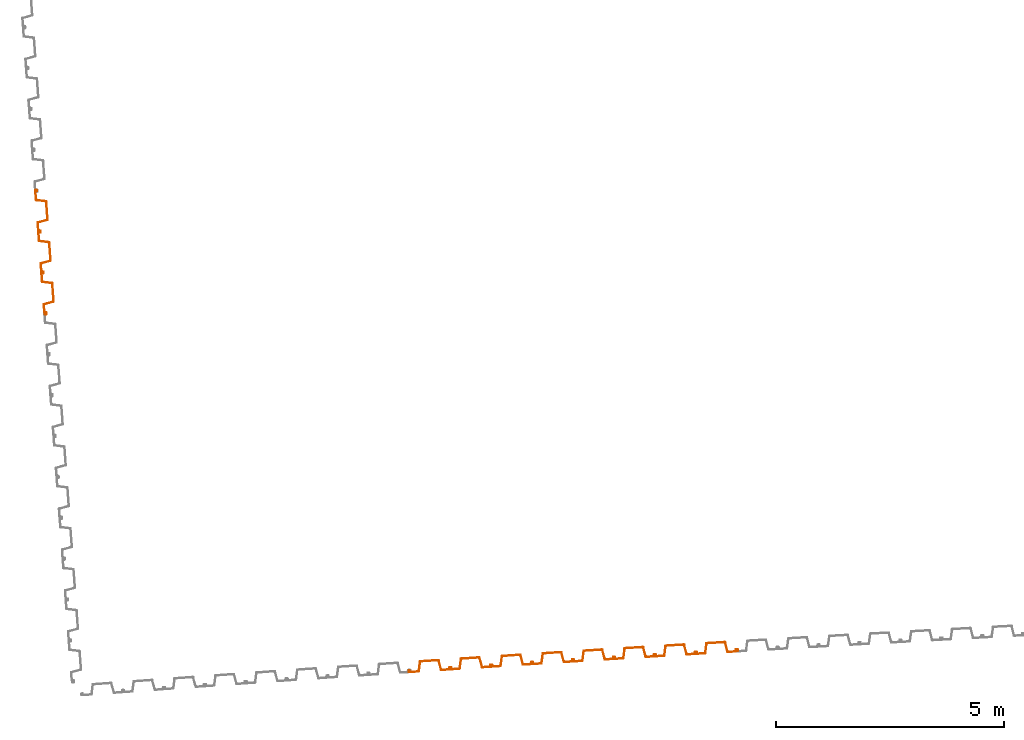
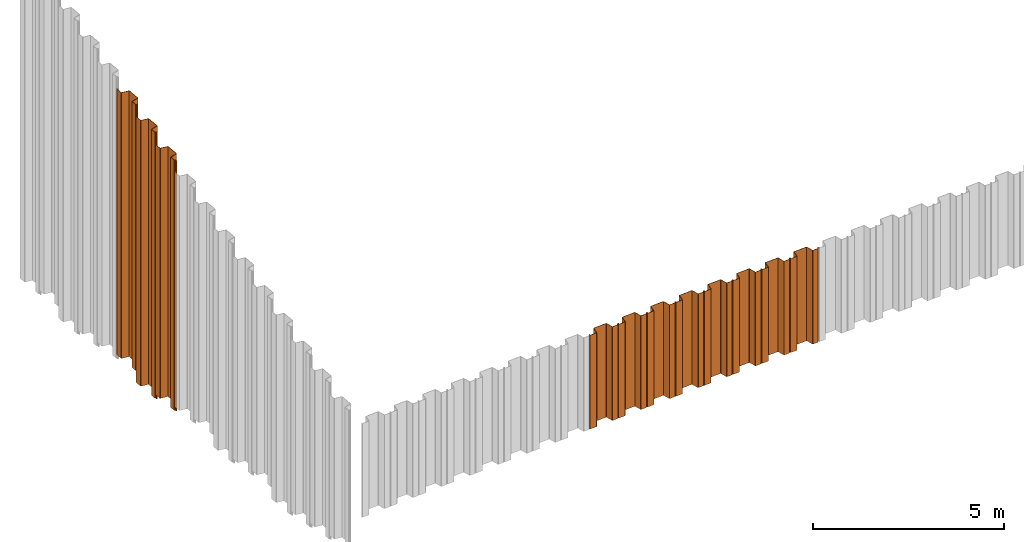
# One storey, part 4 of 12: 11 proxies.
"""IFC2X3 building model written with IfcOpenShell, lengths in millimetres."""

from ifc_helpers import new_model, entity, si_unit, converted_unit, derived_unit, direction, frame, frame_2d, origin, place, context, subcontext, project, spatial, polyline, circle_curve, parameter, trimmed, segment, composite_curve, outline, extrude, source, transform, mapped, material, type_object, type_shapes, element, save


model = new_model("IFC2X3")

# Units and contexts
model_context = context("Model", 3, precision=0.01, world=origin(), true_north=direction((6.12303176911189e-17, 1.0)))
body_context = subcontext(model_context, "Body", "Model", "MODEL_VIEW")
ifc_project = project(units=[si_unit("LENGTHUNIT", "METRE", prefix="MILLI"), si_unit("AREAUNIT", "SQUARE_METRE"), si_unit("VOLUMEUNIT", "CUBIC_METRE"), converted_unit("PLANEANGLEUNIT", "DEGREE", entity("IfcRatioMeasure", 0.0174532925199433), si_unit("PLANEANGLEUNIT", "RADIAN"), dimensions=[0, 0, 0, 0, 0, 0, 0]), si_unit("MASSUNIT", "GRAM", prefix="KILO"), derived_unit("MASSDENSITYUNIT", [(si_unit("MASSUNIT", "GRAM", prefix="KILO"), 1), (si_unit("LENGTHUNIT", "METRE"), -3)]), derived_unit("MOMENTOFINERTIAUNIT", [(si_unit("LENGTHUNIT", "METRE"), 4)]), si_unit("TIMEUNIT", "SECOND"), si_unit("FREQUENCYUNIT", "HERTZ"), si_unit("THERMODYNAMICTEMPERATUREUNIT", "DEGREE_CELSIUS"), derived_unit("THERMALTRANSMITTANCEUNIT", [(si_unit("MASSUNIT", "GRAM", prefix="KILO"), 1), (si_unit("THERMODYNAMICTEMPERATUREUNIT", "KELVIN"), -1), (si_unit("TIMEUNIT", "SECOND"), -3)]), derived_unit("VOLUMETRICFLOWRATEUNIT", [(si_unit("LENGTHUNIT", "METRE"), 3), (si_unit("TIMEUNIT", "SECOND"), -1)]), si_unit("ELECTRICCURRENTUNIT", "AMPERE"), si_unit("ELECTRICVOLTAGEUNIT", "VOLT"), si_unit("POWERUNIT", "WATT"), si_unit("FORCEUNIT", "NEWTON", prefix="KILO"), si_unit("ILLUMINANCEUNIT", "LUX"), si_unit("LUMINOUSFLUXUNIT", "LUMEN"), si_unit("LUMINOUSINTENSITYUNIT", "CANDELA"), derived_unit("USERDEFINED", [(si_unit("MASSUNIT", "GRAM", prefix="KILO"), -1), (si_unit("LENGTHUNIT", "METRE"), -2), (si_unit("TIMEUNIT", "SECOND"), 3), (si_unit("LUMINOUSFLUXUNIT", "LUMEN"), 1)]), derived_unit("LINEARVELOCITYUNIT", [(si_unit("LENGTHUNIT", "METRE"), 1), (si_unit("TIMEUNIT", "SECOND"), -1)]), si_unit("PRESSUREUNIT", "PASCAL"), derived_unit("USERDEFINED", [(si_unit("LENGTHUNIT", "METRE"), -2), (si_unit("MASSUNIT", "GRAM", prefix="KILO"), 1), (si_unit("TIMEUNIT", "SECOND"), -2)]), derived_unit("LINEARFORCEUNIT", [(si_unit("MASSUNIT", "GRAM", prefix="KILO"), 1), (si_unit("LENGTHUNIT", "METRE"), 1), (si_unit("TIMEUNIT", "SECOND"), -2), (si_unit("LENGTHUNIT", "METRE"), -1)]), derived_unit("PLANARFORCEUNIT", [(si_unit("MASSUNIT", "GRAM", prefix="KILO"), 1), (si_unit("LENGTHUNIT", "METRE"), 1), (si_unit("TIMEUNIT", "SECOND"), -2), (si_unit("LENGTHUNIT", "METRE"), -2)])], contexts=[model_context])

# Site, building, storey
site_placement = place(None, origin())
site = spatial("IfcSite", under=ifc_project, at=site_placement, Name="Default", CompositionType="ELEMENT")
building_placement = place(site_placement, origin())
building = spatial("IfcBuilding", under=site, at=building_placement, CompositionType="ELEMENT")
storey_placement = place(building_placement, frame((0.0, 0.0, 10600.0)))
storey = spatial("IfcBuildingStorey", under=building, at=storey_placement, Name="AP+10.600", CompositionType="ELEMENT", Elevation=10600.0)

# Proxies
ifc_material = material(Name="<Unnamed>")
building_element_proxy_type_1 = type_object("IfcBuildingElementProxyType", Name="鋼矢板10H型:鋼矢板10H型", PredefinedType="NOTDEFINED", material=ifc_material)
shared_shape_1 = source(origin(), body_context, "Body", "SweptSolid", [
    extrude(outline(composite_curve([segment(trimmed(circle_curve(frame_2d((85.3662976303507, 306.644432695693), x_axis=(0.422618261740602, 0.906307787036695)), 13.885714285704), [parameter(24.9999999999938)], [parameter(90.0000000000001)], True, "PARAMETER"), True, "CONTINUOUS"), segment(polyline([(72.7815666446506, 312.512789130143), (9.8129512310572, 177.476157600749)]), True, "CONTINUOUS"), segment(trimmed(circle_curve(frame_2d((29.3891994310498, 168.347603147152), x_axis=(0.422618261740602, 0.906307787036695)), 21.6), [parameter(90.0000000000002)], [parameter(168.69006752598)], True, "PARAMETER"), True, "CONTINUOUS"), segment(polyline([(16.598697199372, 150.941769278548), (175.329723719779, 34.2998683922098)]), True, "CONTINUOUS"), segment(trimmed(circle_curve(frame_2d((168.93447260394, 25.596951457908), x_axis=(0.422618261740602, 0.906307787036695)), 10.7999999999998), [parameter(270.0)], [parameter(348.690067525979)], True, "PARAMETER"), False, "CONTINUOUS"), segment(polyline([(178.722596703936, 21.0326742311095), (18.2974003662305, -323.000269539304)]), True, "CONTINUOUS"), segment(trimmed(circle_curve(frame_2d((8.50927626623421, -318.435992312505), x_axis=(0.422618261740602, 0.906307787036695)), 10.8), [parameter(191.30993247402)], [parameter(269.999999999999)], True, "PARAMETER"), False, "CONTINUOUS"), segment(polyline([(5.95324328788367, -328.929166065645), (-185.429973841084, -282.310113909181)]), True, "CONTINUOUS"), segment(trimmed(circle_curve(frame_2d((-190.542039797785, -303.296461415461), x_axis=(0.422618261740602, 0.906307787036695)), 21.6000000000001), [parameter(11.3099324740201)], [parameter(90.0000000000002)], True, "PARAMETER"), True, "CONTINUOUS"), segment(polyline([(-210.118287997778, -294.167906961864), (-290.330886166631, -466.184378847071)]), True, "CONTINUOUS"), segment(trimmed(circle_curve(frame_2d((-270.754637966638, -475.312933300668), x_axis=(0.422618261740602, 0.906307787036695)), 21.6), [parameter(90.0000000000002)], [parameter(269.999999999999)], True, "PARAMETER"), True, "CONTINUOUS"), segment(polyline([(-251.178389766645, -484.441487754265), (-249.065298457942, -479.909948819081)]), True, "CONTINUOUS"), segment(polyline([(-249.065298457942, -479.909948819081), (-258.853422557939, -475.345671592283)]), True, "CONTINUOUS"), segment(polyline([(-258.853422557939, -475.345671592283), (-260.966513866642, -479.877210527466)]), True, "CONTINUOUS"), segment(trimmed(circle_curve(frame_2d((-270.754637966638, -475.312933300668), x_axis=(0.422618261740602, 0.906307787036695)), 10.8), [parameter(90.0000000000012)], [parameter(270.0)], True, "PARAMETER"), False, "CONTINUOUS"), segment(polyline([(-280.542762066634, -470.748656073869), (-200.330163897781, -298.732184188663)]), True, "CONTINUOUS"), segment(trimmed(circle_curve(frame_2d((-190.542039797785, -303.296461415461), x_axis=(0.422618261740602, 0.906307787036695)), 10.8), [parameter(11.3099324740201)], [parameter(89.9999999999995)], True, "PARAMETER"), False, "CONTINUOUS"), segment(polyline([(-187.986006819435, -292.803287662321), (3.39721030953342, -339.422339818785)]), True, "CONTINUOUS"), segment(trimmed(circle_curve(frame_2d((8.50927626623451, -318.435992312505), x_axis=(0.422618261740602, 0.906307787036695)), 21.6), [parameter(191.30993247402)], [parameter(270.0)], True, "PARAMETER"), True, "CONTINUOUS"), segment(polyline([(28.0855244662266, -327.564546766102), (188.510720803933, 16.4683970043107)]), True, "CONTINUOUS"), segment(trimmed(circle_curve(frame_2d((168.93447260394, 25.5969514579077), x_axis=(0.422618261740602, 0.906307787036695)), 21.6), [parameter(270.0)], [parameter(348.69006752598)], True, "PARAMETER"), True, "CONTINUOUS"), segment(polyline([(181.724974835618, 43.0027853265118), (22.9939483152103, 159.644686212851)]), True, "CONTINUOUS"), segment(trimmed(circle_curve(frame_2d((29.3891994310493, 168.347603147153), x_axis=(0.422618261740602, 0.906307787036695)), 10.7999999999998), [parameter(89.9999999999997)], [parameter(168.690067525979)], True, "PARAMETER"), False, "CONTINUOUS"), segment(polyline([(19.6010753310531, 172.911880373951), (82.5696907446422, 307.948511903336)]), True, "CONTINUOUS"), segment(trimmed(circle_curve(frame_2d((85.3662976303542, 306.64443269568), x_axis=(0.422618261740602, 0.906307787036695)), 3.08571428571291), [parameter(25.0000000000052)], [parameter(90.0000000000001)], True, "PARAMETER"), False, "CONTINUOUS"), segment(polyline([(85.3662976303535, 309.730146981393), (122.220231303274, 309.730146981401)]), True, "CONTINUOUS"), segment(trimmed(circle_curve(frame_2d((122.220231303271, 323.615861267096), x_axis=(0.422618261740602, 0.906307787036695)), 13.8857142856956), [parameter(205.000000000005)], [parameter(270.0)], True, "PARAMETER"), True, "CONTINUOUS"), segment(polyline([(134.804962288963, 317.747504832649), (141.079261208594, 331.202782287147)]), True, "CONTINUOUS"), segment(trimmed(circle_curve(frame_2d((121.503013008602, 340.331336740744), x_axis=(0.422618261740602, 0.906307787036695)), 21.6), [parameter(270.0)], [parameter(90.0000000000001)], True, "PARAMETER"), True, "CONTINUOUS"), segment(polyline([(101.926764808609, 349.459891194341), (99.8136734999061, 344.928352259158)]), True, "CONTINUOUS"), segment(polyline([(99.8136734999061, 344.928352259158), (109.601797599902, 340.364075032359)]), True, "CONTINUOUS"), segment(polyline([(109.601797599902, 340.364075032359), (111.714888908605, 344.895613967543)]), True, "CONTINUOUS"), segment(trimmed(circle_curve(frame_2d((121.503013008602, 340.331336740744), x_axis=(0.422618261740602, 0.906307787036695)), 10.8), [parameter(270.0)], [parameter(89.9999999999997)], True, "PARAMETER"), False, "CONTINUOUS"), segment(polyline([(131.291137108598, 335.767059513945), (125.01683818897, 322.311782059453)]), True, "CONTINUOUS"), segment(trimmed(circle_curve(frame_2d((122.220231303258, 323.615861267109), x_axis=(0.422618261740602, 0.906307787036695)), 3.08571428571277), [parameter(204.999999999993)], [parameter(270.0)], True, "PARAMETER"), False, "CONTINUOUS"), segment(polyline([(122.220231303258, 320.530146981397), (85.3662976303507, 320.530146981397)]), True, "CONTINUOUS")], self_intersect=False)), frame((95.205667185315, -48.8888888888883, -3000.0), z_axis=(0.0, 0.0, -1.0), x_axis=(0.4226182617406, 0.906307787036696, 0.0)), (0.0, 0.0, -1.0), 3000.0),
])
type_shapes(building_element_proxy_type_1, [shared_shape_1])
for number, where, z_axis, x_axis in (
    (1, (-74527.7374481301, -17214.3908465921, -650.0), (0.0, 0.0, 1.0), (0.998208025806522, 0.0598392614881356, 0.0)),
    (2, (-75426.0992993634, -17268.6567544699, -650.0), (0.0, 0.0, 1.0), (0.998152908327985, 0.0607517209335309, 0.0)),
    (3, (-76324.4110225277, -17323.7438430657, -650.0), (0.0, 0.0, 1.0), (0.998096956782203, 0.0616641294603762, 0.0)),
    (4, (-77222.6721610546, -17379.6520850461, -650.0), (0.0, 0.0, 1.0), (0.99804017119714, 0.0625764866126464, 0.0)),
    (5, (-78120.8816702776, -17436.3814147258, -650.0), (0.0, 0.0, 1.0), (0.997982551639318, 0.0634887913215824, 0.0)),
    (6, (-79019.0390936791, -17493.9318039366, -650.0), (0.0, 0.0, 1.0), (0.997924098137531, 0.0644010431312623, 0.0)),
    (7, (-79917.1433867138, -17552.3031850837, -650.0), (0.0, 0.0, 1.0), (0.997864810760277, 0.0653132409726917, 0.0)),
    (8, (-80815.1940929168, -17611.495529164, -650.0), (0.0, 0.0, 1.0), (0.997804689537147, 0.0662253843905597, 0.0)),
):
    element("IfcBuildingElementProxy", number, at=place(storey_placement, frame(where, z_axis=z_axis, x_axis=x_axis)), inside=storey, type_object=building_element_proxy_type_1, material=ifc_material, Name="鋼矢板10H型:鋼矢板10H型", ObjectType="鋼矢板10H型:鋼矢板10H型", context=body_context, shape_type="MappedRepresentation", body=[
        mapped(shared_shape_1, transform((0.0, 0.0, 0.0), scale=1.0)),
    ])
building_element_proxy_type_2 = type_object("IfcBuildingElementProxyType", Name="鋼矢板10H型:鋼矢板10H型", PredefinedType="NOTDEFINED", material=ifc_material)
shared_shape_2 = source(origin(), body_context, "Body", "SweptSolid", [
    extrude(outline(composite_curve([segment(trimmed(circle_curve(frame_2d((85.3662976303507, 306.644432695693), x_axis=(0.422618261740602, 0.906307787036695)), 13.885714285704), [parameter(24.9999999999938)], [parameter(90.0000000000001)], True, "PARAMETER"), True, "CONTINUOUS"), segment(polyline([(72.7815666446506, 312.512789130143), (9.8129512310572, 177.476157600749)]), True, "CONTINUOUS"), segment(trimmed(circle_curve(frame_2d((29.3891994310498, 168.347603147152), x_axis=(0.422618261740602, 0.906307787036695)), 21.6), [parameter(90.0000000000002)], [parameter(168.69006752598)], True, "PARAMETER"), True, "CONTINUOUS"), segment(polyline([(16.598697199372, 150.941769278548), (175.329723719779, 34.2998683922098)]), True, "CONTINUOUS"), segment(trimmed(circle_curve(frame_2d((168.93447260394, 25.596951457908), x_axis=(0.422618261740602, 0.906307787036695)), 10.7999999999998), [parameter(270.0)], [parameter(348.690067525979)], True, "PARAMETER"), False, "CONTINUOUS"), segment(polyline([(178.722596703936, 21.0326742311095), (18.2974003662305, -323.000269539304)]), True, "CONTINUOUS"), segment(trimmed(circle_curve(frame_2d((8.50927626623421, -318.435992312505), x_axis=(0.422618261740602, 0.906307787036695)), 10.8), [parameter(191.30993247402)], [parameter(269.999999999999)], True, "PARAMETER"), False, "CONTINUOUS"), segment(polyline([(5.95324328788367, -328.929166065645), (-185.429973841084, -282.310113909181)]), True, "CONTINUOUS"), segment(trimmed(circle_curve(frame_2d((-190.542039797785, -303.296461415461), x_axis=(0.422618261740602, 0.906307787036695)), 21.6000000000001), [parameter(11.3099324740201)], [parameter(90.0000000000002)], True, "PARAMETER"), True, "CONTINUOUS"), segment(polyline([(-210.118287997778, -294.167906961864), (-290.330886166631, -466.184378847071)]), True, "CONTINUOUS"), segment(trimmed(circle_curve(frame_2d((-270.754637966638, -475.312933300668), x_axis=(0.422618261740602, 0.906307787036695)), 21.6), [parameter(90.0000000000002)], [parameter(269.999999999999)], True, "PARAMETER"), True, "CONTINUOUS"), segment(polyline([(-251.178389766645, -484.441487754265), (-249.065298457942, -479.909948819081)]), True, "CONTINUOUS"), segment(polyline([(-249.065298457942, -479.909948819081), (-258.853422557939, -475.345671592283)]), True, "CONTINUOUS"), segment(polyline([(-258.853422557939, -475.345671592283), (-260.966513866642, -479.877210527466)]), True, "CONTINUOUS"), segment(trimmed(circle_curve(frame_2d((-270.754637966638, -475.312933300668), x_axis=(0.422618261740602, 0.906307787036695)), 10.8), [parameter(90.0000000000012)], [parameter(270.0)], True, "PARAMETER"), False, "CONTINUOUS"), segment(polyline([(-280.542762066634, -470.748656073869), (-200.330163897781, -298.732184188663)]), True, "CONTINUOUS"), segment(trimmed(circle_curve(frame_2d((-190.542039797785, -303.296461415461), x_axis=(0.422618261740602, 0.906307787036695)), 10.8), [parameter(11.3099324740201)], [parameter(89.9999999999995)], True, "PARAMETER"), False, "CONTINUOUS"), segment(polyline([(-187.986006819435, -292.803287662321), (3.39721030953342, -339.422339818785)]), True, "CONTINUOUS"), segment(trimmed(circle_curve(frame_2d((8.50927626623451, -318.435992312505), x_axis=(0.422618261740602, 0.906307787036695)), 21.6), [parameter(191.30993247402)], [parameter(270.0)], True, "PARAMETER"), True, "CONTINUOUS"), segment(polyline([(28.0855244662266, -327.564546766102), (188.510720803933, 16.4683970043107)]), True, "CONTINUOUS"), segment(trimmed(circle_curve(frame_2d((168.93447260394, 25.5969514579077), x_axis=(0.422618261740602, 0.906307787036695)), 21.6), [parameter(270.0)], [parameter(348.69006752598)], True, "PARAMETER"), True, "CONTINUOUS"), segment(polyline([(181.724974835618, 43.0027853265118), (22.9939483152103, 159.644686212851)]), True, "CONTINUOUS"), segment(trimmed(circle_curve(frame_2d((29.3891994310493, 168.347603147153), x_axis=(0.422618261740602, 0.906307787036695)), 10.7999999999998), [parameter(89.9999999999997)], [parameter(168.690067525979)], True, "PARAMETER"), False, "CONTINUOUS"), segment(polyline([(19.6010753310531, 172.911880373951), (82.5696907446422, 307.948511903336)]), True, "CONTINUOUS"), segment(trimmed(circle_curve(frame_2d((85.3662976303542, 306.64443269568), x_axis=(0.422618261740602, 0.906307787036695)), 3.08571428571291), [parameter(25.0000000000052)], [parameter(90.0000000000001)], True, "PARAMETER"), False, "CONTINUOUS"), segment(polyline([(85.3662976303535, 309.730146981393), (122.220231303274, 309.730146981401)]), True, "CONTINUOUS"), segment(trimmed(circle_curve(frame_2d((122.220231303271, 323.615861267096), x_axis=(0.422618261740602, 0.906307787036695)), 13.8857142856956), [parameter(205.000000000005)], [parameter(270.0)], True, "PARAMETER"), True, "CONTINUOUS"), segment(polyline([(134.804962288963, 317.747504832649), (141.079261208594, 331.202782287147)]), True, "CONTINUOUS"), segment(trimmed(circle_curve(frame_2d((121.503013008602, 340.331336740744), x_axis=(0.422618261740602, 0.906307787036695)), 21.6), [parameter(270.0)], [parameter(90.0000000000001)], True, "PARAMETER"), True, "CONTINUOUS"), segment(polyline([(101.926764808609, 349.459891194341), (99.8136734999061, 344.928352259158)]), True, "CONTINUOUS"), segment(polyline([(99.8136734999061, 344.928352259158), (109.601797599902, 340.364075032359)]), True, "CONTINUOUS"), segment(polyline([(109.601797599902, 340.364075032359), (111.714888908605, 344.895613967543)]), True, "CONTINUOUS"), segment(trimmed(circle_curve(frame_2d((121.503013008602, 340.331336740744), x_axis=(0.422618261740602, 0.906307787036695)), 10.8), [parameter(270.0)], [parameter(89.9999999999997)], True, "PARAMETER"), False, "CONTINUOUS"), segment(polyline([(131.291137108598, 335.767059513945), (125.01683818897, 322.311782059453)]), True, "CONTINUOUS"), segment(trimmed(circle_curve(frame_2d((122.220231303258, 323.615861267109), x_axis=(0.422618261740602, 0.906307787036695)), 3.08571428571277), [parameter(204.999999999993)], [parameter(270.0)], True, "PARAMETER"), False, "CONTINUOUS"), segment(polyline([(122.220231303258, 320.530146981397), (85.3662976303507, 320.530146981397)]), True, "CONTINUOUS")], self_intersect=False)), frame((95.205667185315, -48.8888888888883, -8000.0), z_axis=(0.0, 0.0, -1.0), x_axis=(0.4226182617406, 0.906307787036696, 0.0)), (0.0, 0.0, -1.0), 8000.0),
])
type_shapes(building_element_proxy_type_2, [shared_shape_2])
proxy_placement = place(storey_placement, frame((-89192.8130691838, -9423.98860152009, 2958.35268431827), z_axis=(0.0, 0.0, 1.0), x_axis=(0.0743258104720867, -0.997234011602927, 0.0)))
element("IfcBuildingElementProxy", 9, at=proxy_placement, inside=storey, type_object=building_element_proxy_type_2, material=ifc_material, Name="鋼矢板10H型:鋼矢板10H型", ObjectType="鋼矢板10H型:鋼矢板10H型", context=body_context, shape_type="MappedRepresentation", body=[
    mapped(shared_shape_2, transform((0.0, 0.0, 0.0), scale=1.0)),
])
building_element_proxy_type_3 = type_object("IfcBuildingElementProxyType", Name="鋼矢板10H型:鋼矢板10H型", PredefinedType="NOTDEFINED", material=ifc_material)
shared_shape_3 = source(origin(), body_context, "Body", "SweptSolid", [
    extrude(outline(composite_curve([segment(trimmed(circle_curve(frame_2d((85.3662976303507, 306.644432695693), x_axis=(0.422618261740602, 0.906307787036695)), 13.885714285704), [parameter(24.9999999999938)], [parameter(90.0000000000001)], True, "PARAMETER"), True, "CONTINUOUS"), segment(polyline([(72.7815666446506, 312.512789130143), (9.8129512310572, 177.476157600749)]), True, "CONTINUOUS"), segment(trimmed(circle_curve(frame_2d((29.3891994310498, 168.347603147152), x_axis=(0.422618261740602, 0.906307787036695)), 21.6), [parameter(90.0000000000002)], [parameter(168.69006752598)], True, "PARAMETER"), True, "CONTINUOUS"), segment(polyline([(16.598697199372, 150.941769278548), (175.329723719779, 34.2998683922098)]), True, "CONTINUOUS"), segment(trimmed(circle_curve(frame_2d((168.93447260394, 25.596951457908), x_axis=(0.422618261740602, 0.906307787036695)), 10.7999999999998), [parameter(270.0)], [parameter(348.690067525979)], True, "PARAMETER"), False, "CONTINUOUS"), segment(polyline([(178.722596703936, 21.0326742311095), (18.2974003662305, -323.000269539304)]), True, "CONTINUOUS"), segment(trimmed(circle_curve(frame_2d((8.50927626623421, -318.435992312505), x_axis=(0.422618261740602, 0.906307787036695)), 10.8), [parameter(191.30993247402)], [parameter(269.999999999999)], True, "PARAMETER"), False, "CONTINUOUS"), segment(polyline([(5.95324328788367, -328.929166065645), (-185.429973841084, -282.310113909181)]), True, "CONTINUOUS"), segment(trimmed(circle_curve(frame_2d((-190.542039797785, -303.296461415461), x_axis=(0.422618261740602, 0.906307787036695)), 21.6000000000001), [parameter(11.3099324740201)], [parameter(90.0000000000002)], True, "PARAMETER"), True, "CONTINUOUS"), segment(polyline([(-210.118287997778, -294.167906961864), (-290.330886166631, -466.184378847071)]), True, "CONTINUOUS"), segment(trimmed(circle_curve(frame_2d((-270.754637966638, -475.312933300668), x_axis=(0.422618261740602, 0.906307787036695)), 21.6), [parameter(90.0000000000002)], [parameter(269.999999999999)], True, "PARAMETER"), True, "CONTINUOUS"), segment(polyline([(-251.178389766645, -484.441487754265), (-249.065298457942, -479.909948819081)]), True, "CONTINUOUS"), segment(polyline([(-249.065298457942, -479.909948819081), (-258.853422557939, -475.345671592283)]), True, "CONTINUOUS"), segment(polyline([(-258.853422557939, -475.345671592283), (-260.966513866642, -479.877210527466)]), True, "CONTINUOUS"), segment(trimmed(circle_curve(frame_2d((-270.754637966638, -475.312933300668), x_axis=(0.422618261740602, 0.906307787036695)), 10.8), [parameter(90.0000000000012)], [parameter(270.0)], True, "PARAMETER"), False, "CONTINUOUS"), segment(polyline([(-280.542762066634, -470.748656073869), (-200.330163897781, -298.732184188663)]), True, "CONTINUOUS"), segment(trimmed(circle_curve(frame_2d((-190.542039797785, -303.296461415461), x_axis=(0.422618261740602, 0.906307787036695)), 10.8), [parameter(11.3099324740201)], [parameter(89.9999999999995)], True, "PARAMETER"), False, "CONTINUOUS"), segment(polyline([(-187.986006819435, -292.803287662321), (3.39721030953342, -339.422339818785)]), True, "CONTINUOUS"), segment(trimmed(circle_curve(frame_2d((8.50927626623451, -318.435992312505), x_axis=(0.422618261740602, 0.906307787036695)), 21.6), [parameter(191.30993247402)], [parameter(270.0)], True, "PARAMETER"), True, "CONTINUOUS"), segment(polyline([(28.0855244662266, -327.564546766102), (188.510720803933, 16.4683970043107)]), True, "CONTINUOUS"), segment(trimmed(circle_curve(frame_2d((168.93447260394, 25.5969514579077), x_axis=(0.422618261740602, 0.906307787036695)), 21.6), [parameter(270.0)], [parameter(348.69006752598)], True, "PARAMETER"), True, "CONTINUOUS"), segment(polyline([(181.724974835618, 43.0027853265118), (22.9939483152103, 159.644686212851)]), True, "CONTINUOUS"), segment(trimmed(circle_curve(frame_2d((29.3891994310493, 168.347603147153), x_axis=(0.422618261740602, 0.906307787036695)), 10.7999999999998), [parameter(89.9999999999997)], [parameter(168.690067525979)], True, "PARAMETER"), False, "CONTINUOUS"), segment(polyline([(19.6010753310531, 172.911880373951), (82.5696907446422, 307.948511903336)]), True, "CONTINUOUS"), segment(trimmed(circle_curve(frame_2d((85.3662976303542, 306.64443269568), x_axis=(0.422618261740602, 0.906307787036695)), 3.08571428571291), [parameter(25.0000000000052)], [parameter(90.0000000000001)], True, "PARAMETER"), False, "CONTINUOUS"), segment(polyline([(85.3662976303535, 309.730146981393), (122.220231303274, 309.730146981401)]), True, "CONTINUOUS"), segment(trimmed(circle_curve(frame_2d((122.220231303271, 323.615861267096), x_axis=(0.422618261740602, 0.906307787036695)), 13.8857142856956), [parameter(205.000000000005)], [parameter(270.0)], True, "PARAMETER"), True, "CONTINUOUS"), segment(polyline([(134.804962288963, 317.747504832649), (141.079261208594, 331.202782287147)]), True, "CONTINUOUS"), segment(trimmed(circle_curve(frame_2d((121.503013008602, 340.331336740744), x_axis=(0.422618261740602, 0.906307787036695)), 21.6), [parameter(270.0)], [parameter(90.0000000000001)], True, "PARAMETER"), True, "CONTINUOUS"), segment(polyline([(101.926764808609, 349.459891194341), (99.8136734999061, 344.928352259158)]), True, "CONTINUOUS"), segment(polyline([(99.8136734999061, 344.928352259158), (109.601797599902, 340.364075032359)]), True, "CONTINUOUS"), segment(polyline([(109.601797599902, 340.364075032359), (111.714888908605, 344.895613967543)]), True, "CONTINUOUS"), segment(trimmed(circle_curve(frame_2d((121.503013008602, 340.331336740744), x_axis=(0.422618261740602, 0.906307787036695)), 10.8), [parameter(270.0)], [parameter(89.9999999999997)], True, "PARAMETER"), False, "CONTINUOUS"), segment(polyline([(131.291137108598, 335.767059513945), (125.01683818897, 322.311782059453)]), True, "CONTINUOUS"), segment(trimmed(circle_curve(frame_2d((122.220231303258, 323.615861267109), x_axis=(0.422618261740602, 0.906307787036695)), 3.08571428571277), [parameter(204.999999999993)], [parameter(270.0)], True, "PARAMETER"), False, "CONTINUOUS"), segment(polyline([(122.220231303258, 320.530146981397), (85.3662976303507, 320.530146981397)]), True, "CONTINUOUS")], self_intersect=False)), frame((95.205667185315, -48.8888888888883, -8500.0), z_axis=(0.0, 0.0, -1.0), x_axis=(0.4226182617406, 0.906307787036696, 0.0)), (0.0, 0.0, -1.0), 8500.0),
])
type_shapes(building_element_proxy_type_3, [shared_shape_3])
for number, where, z_axis, x_axis in (
    (10, (-89326.5995280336, -7628.9673806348, 3694.15268431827), (0.0, 0.0, 1.0), (0.0743258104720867, -0.997234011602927, 0.0)),
    (11, (-89259.7062986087, -8526.47799107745, 3326.25268431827), (0.0, 0.0, 1.0), (0.0743258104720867, -0.997234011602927, 0.0)),
):
    element("IfcBuildingElementProxy", number, at=place(storey_placement, frame(where, z_axis=z_axis, x_axis=x_axis)), inside=storey, type_object=building_element_proxy_type_3, material=ifc_material, Name="鋼矢板10H型:鋼矢板10H型", ObjectType="鋼矢板10H型:鋼矢板10H型", context=body_context, shape_type="MappedRepresentation", body=[
        mapped(shared_shape_3, transform((0.0, 0.0, 0.0), scale=1.0)),
    ])

save(model, "model.ifc")
